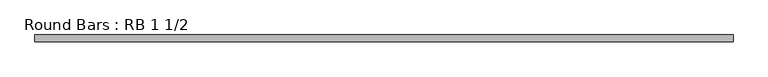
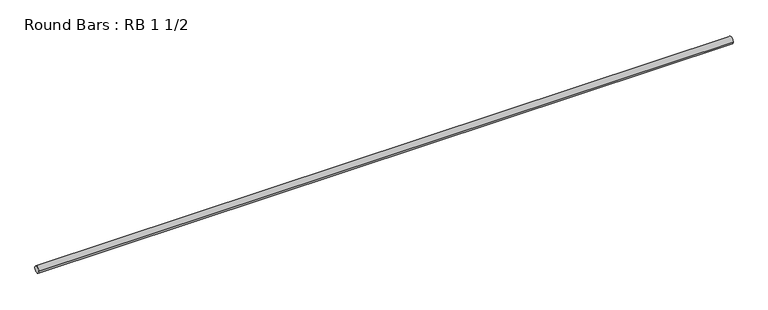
"""IFC4 building model written with IfcOpenShell, lengths in millimetres: member geometry, Round Bars : RB 1 1/2."""

from ifc_helpers import new_model, si_unit, point, frame, origin, origin_2d, place, context, project, spatial, circle_curve, trimmed, segment, composite_curve, outline, extrude, source, transform, mapped, element, save


def round_bars_rb_1_1_2_4f811392(model_context):
    return source(origin(), model_context, "Body", "SweptSolid", [
        extrude(outline(composite_curve([segment(trimmed(circle_curve(origin_2d(), 19.05), [point((19.05, 0.0))], [point((-19.05, 0.0))], False, "CARTESIAN"), True, "CONTINUOUS"), segment(trimmed(circle_curve(origin_2d(), 19.05), [point((-19.05, 0.0))], [point((19.05, 0.0))], False, "CARTESIAN"), True, "CONTINUOUS")], self_intersect=False)), frame((-2044.2368535, 0.0, 0.0), z_axis=(1.0, 0.0, 0.0), x_axis=(0.0, 1.0, 0.0)), (0.0, 0.0, 1.0), 3888.1675827),
    ])


if __name__ == "__main__":
    model = new_model("IFC4")
    model_context = context("Model", 3, world=origin())
    ifc_project = project(units=[si_unit("LENGTHUNIT", "METRE", prefix="MILLI")], contexts=[model_context])
    site = spatial("IfcSite", under=ifc_project)
    building = spatial("IfcBuilding", under=site)
    placement = place(None, origin())
    round_bars_rb_1_1_2_shape = round_bars_rb_1_1_2_4f811392(model_context)
    element("IfcMember", 1, ObjectType="Round Bars : RB 1 1/2", at=placement, inside=building, context=model_context, shape_type="MappedRepresentation", body=[
        mapped(round_bars_rb_1_1_2_shape, transform((0.0, 0.0, 0.0), x_axis=(1.0, 0.0, 0.0), y_axis=(0.0, 1.0, 0.0), z_axis=(0.0, 0.0, 1.0))),
    ])
    save(model, "model.ifc")
